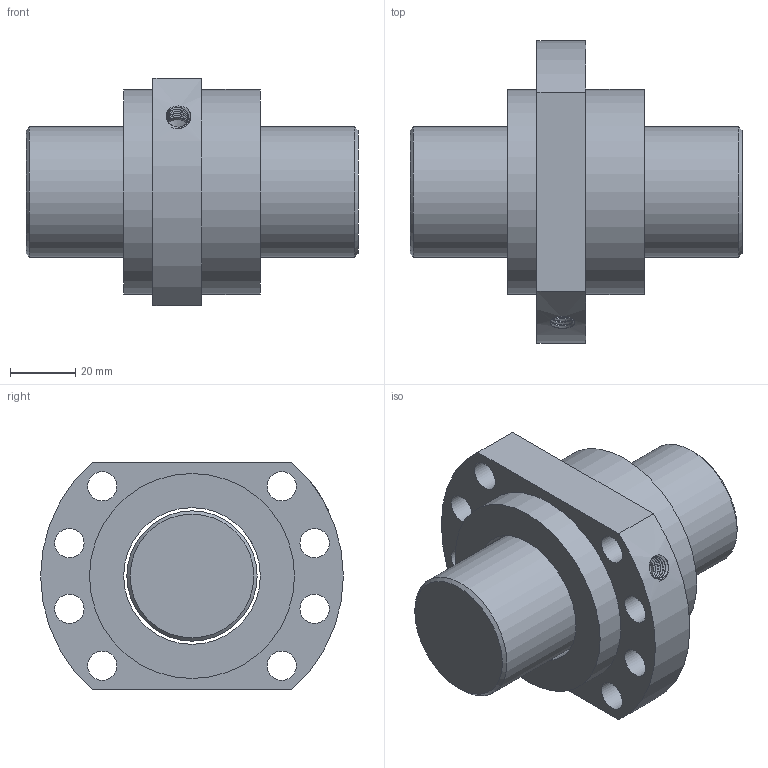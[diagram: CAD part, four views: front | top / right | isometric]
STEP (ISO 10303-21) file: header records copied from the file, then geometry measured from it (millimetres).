
FILE_DESCRIPTION (( 'STEP AP203' ), '1' );
FILE_NAME ('SFH4005-3.8.STEP', '2023-08-16T08:54:10', ( '' ), ( '' ), 'SwSTEP 2.0', 'SolidWorks 2022', '' );
FILE_SCHEMA (( 'CONFIG_CONTROL_DESIGN' ));
Length unit declared in the file: millimetre
Products named in the file (1): SFH4005-3.8
Bounding box: 102 x 93 x 70 mm (x, y, z)
Volume: 233353.8 mm3; surface area: 41956.8 mm2
Topology: 2 solids, 2 shells, 32 faces, 75 edges, 49 vertices
Faces by surface type: cylinder 18, plane 9, cone 3, bspline 2
Full cylindrical faces by diameter (mm): 2.5 x1, 6.917 x1, 9 x8, 40 x1, 42 x1, 63 x2
Entity records: 2375 total; most frequent: CARTESIAN_POINT 1617, DIRECTION 140, ORIENTED_EDGE 108, EDGE_LOOP 71, AXIS2_PLACEMENT_3D 66, EDGE_CURVE 54, FACE_OUTER_BOUND 46, VERTEX_POINT 45
